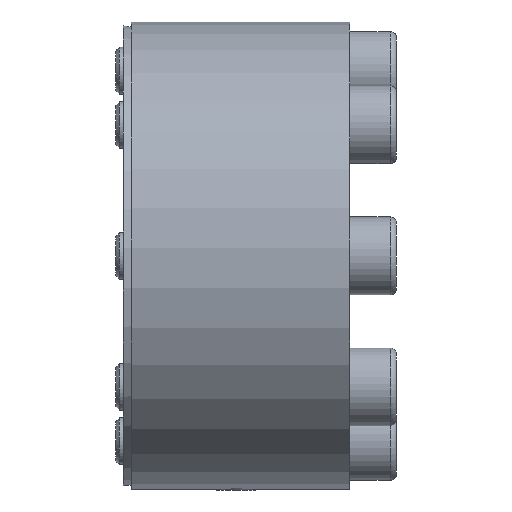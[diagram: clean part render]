
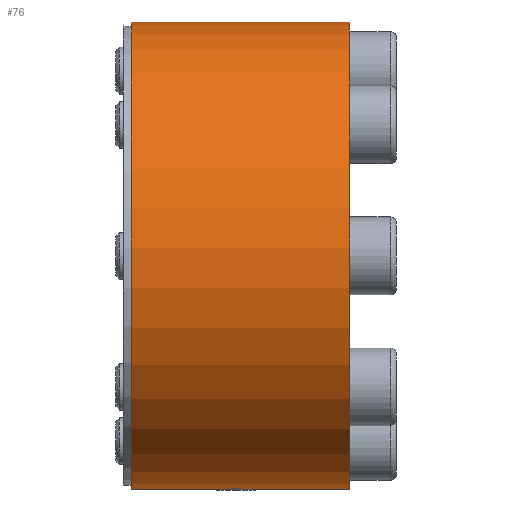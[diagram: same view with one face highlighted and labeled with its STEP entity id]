
A CAD part, left-side view. The second image highlights one B-rep face of the part: STEP entity #76.
In plain terms, the highlighted cylindrical face has radius 30 mm (diameter 60 mm), a partial arc.
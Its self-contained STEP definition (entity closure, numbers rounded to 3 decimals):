
#76 = ADVANCED_FACE( '', ( #162 ), #163, .T. );
#162 = FACE_OUTER_BOUND( '', #270, .T. );
#163 = CYLINDRICAL_SURFACE( '', #271, 30. );
#270 = EDGE_LOOP( '', ( #432, #433, #434, #435 ) );
#271 = AXIS2_PLACEMENT_3D( '', #436, #437, #438 );
#432 = ORIENTED_EDGE( '', *, *, #612, .T. );
#433 = ORIENTED_EDGE( '', *, *, #615, .T. );
#434 = ORIENTED_EDGE( '', *, *, #616, .T. );
#435 = ORIENTED_EDGE( '', *, *, #617, .T. );
#436 = CARTESIAN_POINT( '', ( 0., -60., 0. ) );
#437 = DIRECTION( '', ( 0., -1., 0. ) );
#438 = DIRECTION( '', ( 0., 0., 1. ) );
#612 = EDGE_CURVE( '', #755, #753, #756, .T. );
#615 = EDGE_CURVE( '', #753, #759, #760, .F. );
#616 = EDGE_CURVE( '', #759, #761, #762, .T. );
#617 = EDGE_CURVE( '', #761, #755, #763, .T. );
#753 = VERTEX_POINT( '', #1004 );
#755 = VERTEX_POINT( '', #1007 );
#756 = CIRCLE( '', #1008, 30. );
#759 = VERTEX_POINT( '', #1012 );
#760 = LINE( '', #1013, #1014 );
#761 = VERTEX_POINT( '', #1015 );
#762 = CIRCLE( '', #1016, 30. );
#763 = LINE( '', #1017, #1018 );
#1004 = CARTESIAN_POINT( '', ( 12.17, 13.5, 27.421 ) );
#1007 = CARTESIAN_POINT( '', ( 10.784, 13.5, 27.995 ) );
#1008 = AXIS2_PLACEMENT_3D( '', #1137, #1138, #1139 );
#1012 = CARTESIAN_POINT( '', ( 12.17, -14.5, 27.421 ) );
#1013 = CARTESIAN_POINT( '', ( 12.17, -60., 27.421 ) );
#1014 = VECTOR( '', #1141, 1000. );
#1015 = CARTESIAN_POINT( '', ( 10.784, -14.5, 27.995 ) );
#1016 = AXIS2_PLACEMENT_3D( '', #1142, #1143, #1144 );
#1017 = CARTESIAN_POINT( '', ( 10.784, -60., 27.995 ) );
#1018 = VECTOR( '', #1145, 1000. );
#1137 = CARTESIAN_POINT( '', ( 0., 13.5, 0. ) );
#1138 = DIRECTION( '', ( 0., -1., 0. ) );
#1139 = DIRECTION( '', ( 0., 0., -1. ) );
#1141 = DIRECTION( '', ( 0., 1., 0. ) );
#1142 = CARTESIAN_POINT( '', ( 0., -14.5, 0. ) );
#1143 = DIRECTION( '', ( 0., 1., 0. ) );
#1144 = DIRECTION( '', ( 0., 0., 1. ) );
#1145 = DIRECTION( '', ( 0., 1., 0. ) );
